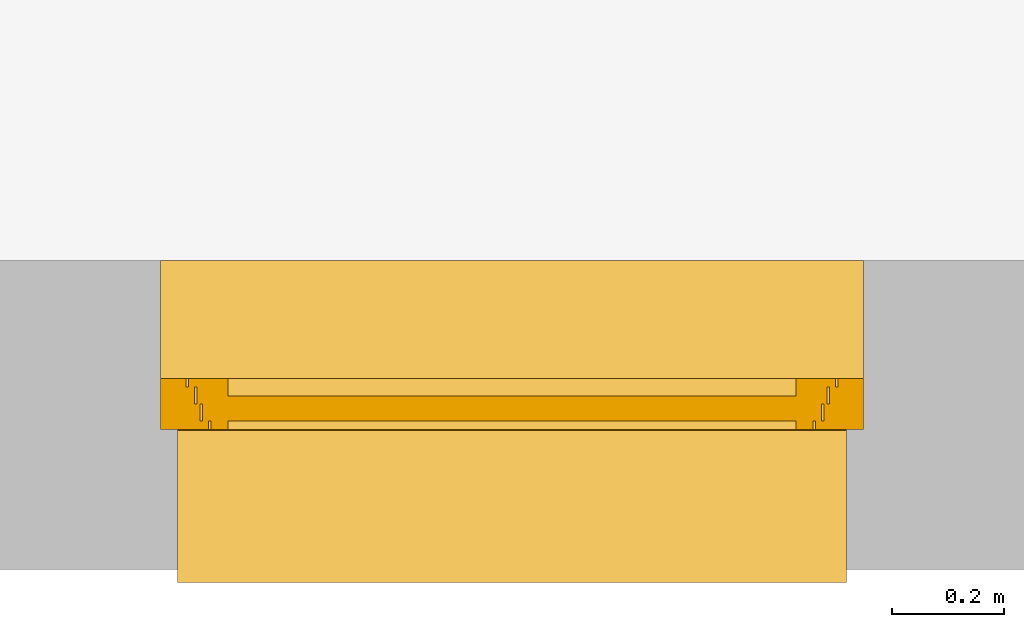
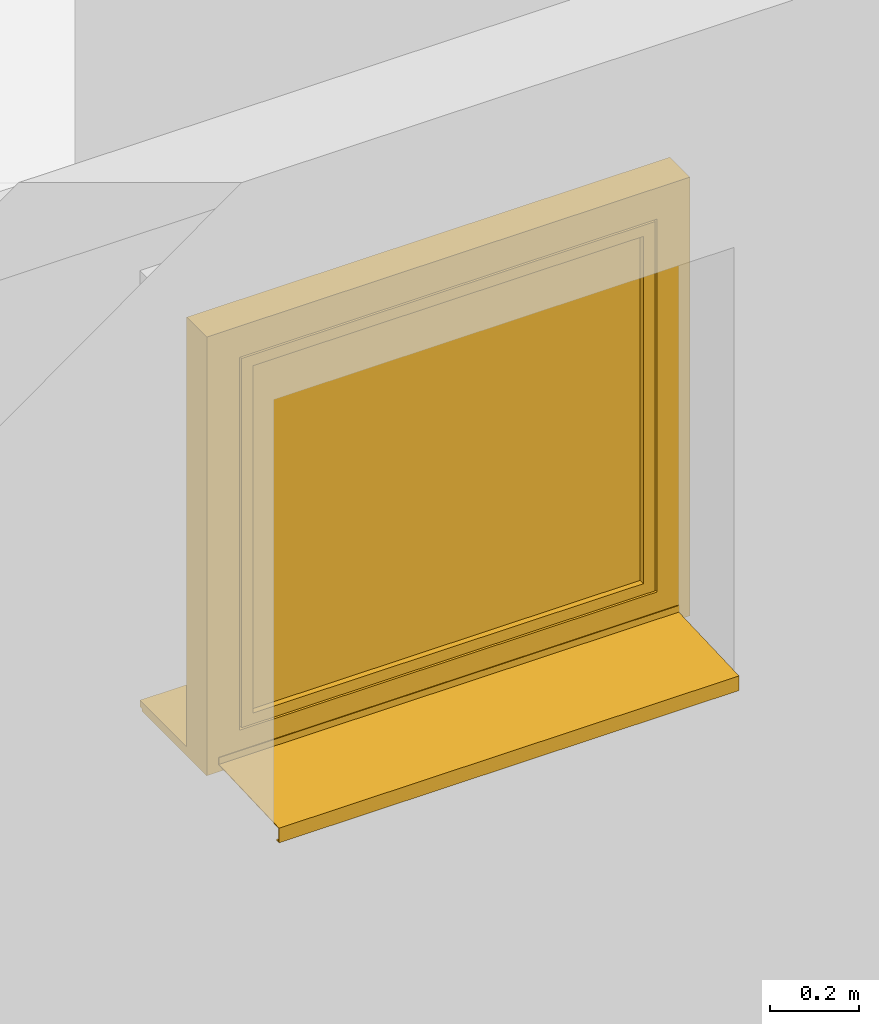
# One storey, part 11 of 18: 1 window.
"""IFC2X3 building model written with IfcOpenShell, lengths in metres."""

from ifc_helpers import new_model, entity, si_unit, converted_unit, derived_unit, direction, frame, origin, origin_2d_with_axis, place, context, subcontext, project, spatial, polyline, rectangle, outline, extrude, faceted_brep, source, transform, mapped, material, material_list, type_object, type_shapes, element, save


model = new_model("IFC2X3")

# Units and contexts
model_context = context("Model", 3, precision=1e-05, world=origin(), true_north=direction((6.123233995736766e-17, 1.0)))
body_context = subcontext(model_context, "Body", "Model", "MODEL_VIEW")
ifc_project = project(units=[si_unit("LENGTHUNIT", "METRE"), si_unit("AREAUNIT", "SQUARE_METRE"), si_unit("VOLUMEUNIT", "CUBIC_METRE"), si_unit("POWERUNIT", "WATT"), derived_unit("USERDEFINED", [(si_unit("MASSUNIT", "GRAM", prefix="KILO"), 1), (si_unit("TIMEUNIT", "SECOND"), -3)]), derived_unit("THERMALRESISTANCEUNIT", [(si_unit("MASSUNIT", "GRAM", prefix="KILO"), -1), (si_unit("TIMEUNIT", "SECOND"), 3), (si_unit("THERMODYNAMICTEMPERATUREUNIT", "KELVIN"), 1)]), derived_unit("USERDEFINED", [(si_unit("MASSUNIT", "GRAM", prefix="KILO"), 1), (si_unit("TIMEUNIT", "SECOND"), -2), (si_unit("THERMODYNAMICTEMPERATUREUNIT", "KELVIN"), -1)]), derived_unit("THERMALTRANSMITTANCEUNIT", [(si_unit("MASSUNIT", "GRAM", prefix="KILO"), 1), (si_unit("TIMEUNIT", "SECOND"), -3), (si_unit("THERMODYNAMICTEMPERATUREUNIT", "KELVIN"), -1)]), converted_unit("PLANEANGLEUNIT", "DEGREE", entity("IfcPlaneAngleMeasure", 0.017453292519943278), si_unit("PLANEANGLEUNIT", "RADIAN"), dimensions=[0, 0, 0, 0, 0, 0, 0]), derived_unit("MOMENTOFINERTIAUNIT", [(si_unit("LENGTHUNIT", "METRE"), 4)])], contexts=[model_context])

# Site, building, storey
site_placement = place(None, origin())
site = spatial("IfcSite", under=ifc_project, at=site_placement, Name="Default", CompositionType="ELEMENT")
building_placement = place(site_placement, origin())
building = spatial("IfcBuilding", under=site, at=building_placement, CompositionType="ELEMENT")
storey_placement = place(building_placement, frame((0.0, 0.0, 2.6)))
storey = spatial("IfcBuildingStorey", under=building, at=storey_placement, Name="Erdgeschoss", CompositionType="ELEMENT", Elevation=2.6)

# Window
ifc_material_1 = material(Name="Glas - Isolierverglasung klar")
ifc_material_2 = material(Name="Holz - generisch 140-100-70")
ifc_material_3 = material(Name="Metall - Edelstahl gebürstet")
ifc_material_4 = material(Name="Kunststoff - grau 70-70-70")
ifc_material_list = material_list([ifc_material_1, ifc_material_2, ifc_material_3, ifc_material_4])
window_style = type_object("IfcWindowStyle", Name="FE 1 tlg - DrehKipp:1250 x 1200", ConstructionType="NOTDEFINED", OperationType="NOTDEFINED", ParameterTakesPrecedence=False, Sizeable=False, material=ifc_material_list)
shared_shape = source(origin(), body_context, "Body", "SolidModel", [
    extrude(rectangle(XDim=1.0100000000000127, YDim=0.04399999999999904, at=origin_2d_with_axis()), frame((0.6250000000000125, 0.8130000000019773, 0.13000000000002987), z_axis=(0.0, 0.0, 1.0), x_axis=(-1.0, 0.0, 0.0)), (0.0, 0.0, 1.0), 0.9499999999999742),
    extrude(outline(polyline([(-0.07333333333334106, -0.014333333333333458), (0.13666666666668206, -0.014333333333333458), (0.13666666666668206, 0.010666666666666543), (-0.06333333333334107, 0.010666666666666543), (-0.06333333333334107, 0.00366666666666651), (-0.07333333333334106, 0.00366666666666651), (-0.07333333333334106, -0.014333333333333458)])), frame((1.2500000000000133, 0.6233333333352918, 0.010666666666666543), z_axis=(-1.0, 0.0, 0.0), x_axis=(0.0, 1.0, 0.0)), (0.0, 0.0, 1.0), 1.2499999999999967),
    faceted_brep([(0.07250000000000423, 0.7600000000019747, 0.5874999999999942), (0.07250000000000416, 0.7600000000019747, 0.6049999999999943), (0.07250000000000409, 0.7600000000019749, 0.6224999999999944), (0.07292592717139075, 0.7600000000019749, 0.6257352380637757), (0.07417468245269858, 0.7600000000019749, 0.6287499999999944), (0.07616116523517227, 0.7600000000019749, 0.6313388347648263), (0.0787500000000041, 0.7600000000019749, 0.6333253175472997), (0.08176476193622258, 0.7600000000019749, 0.6345740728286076), (0.0850000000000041, 0.7600000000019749, 0.6349999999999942), (0.08823523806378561, 0.7600000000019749, 0.6345740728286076), (0.09125000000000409, 0.7600000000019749, 0.6333253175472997), (0.09383883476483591, 0.7600000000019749, 0.6313388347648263), (0.09582531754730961, 0.7600000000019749, 0.6287499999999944), (0.09707407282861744, 0.7600000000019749, 0.6257352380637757), (0.0975000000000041, 0.7600000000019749, 0.6224999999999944), (0.0975000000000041, 0.7600000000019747, 0.6049999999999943), (0.09750000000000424, 0.7600000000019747, 0.5874999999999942), (0.09707407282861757, 0.7600000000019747, 0.5842647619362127), (0.09582531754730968, 0.7600000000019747, 0.5812499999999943), (0.09383883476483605, 0.7600000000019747, 0.5786611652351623), (0.09125000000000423, 0.7600000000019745, 0.5766746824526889), (0.08823523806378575, 0.7600000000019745, 0.575425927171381), (0.08500000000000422, 0.7600000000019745, 0.5749999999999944), (0.08176476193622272, 0.7600000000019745, 0.575425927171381), (0.07875000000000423, 0.7600000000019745, 0.5766746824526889), (0.07616116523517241, 0.7600000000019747, 0.5786611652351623), (0.07417468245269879, 0.7600000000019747, 0.5812499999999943), (0.07292592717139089, 0.7600000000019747, 0.5842647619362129), (0.07633974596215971, 0.7250000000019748, 0.6099999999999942), (0.08000000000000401, 0.7540000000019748, 0.6136602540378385), (0.07534074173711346, 0.7274118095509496, 0.6075881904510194), (0.07792893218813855, 0.7229289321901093, 0.6120710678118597), (0.0824118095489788, 0.7540000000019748, 0.6146592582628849), (0.08758819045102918, 0.720340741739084, 0.6146592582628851), (0.09000000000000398, 0.7213397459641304, 0.6136602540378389), (0.08000000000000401, 0.7213397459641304, 0.6136602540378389), (0.08241180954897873, 0.720340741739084, 0.6146592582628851), (0.08500000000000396, 0.7200000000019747, 0.6149999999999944), (0.08500000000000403, 0.7540000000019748, 0.6149999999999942), (0.07534074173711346, 0.7540000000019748, 0.6075881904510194), (0.07500000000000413, 0.7540000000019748, 0.6049999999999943), (0.07500000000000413, 0.741715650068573, 0.6049999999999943), (0.07500000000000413, 0.7358578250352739, 0.6049999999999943), (0.07500000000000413, 0.7329289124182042, 0.6049999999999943), (0.07500000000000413, 0.7300000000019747, 0.6049999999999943), (0.07633974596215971, 0.7540000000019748, 0.6099999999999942), (0.07792893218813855, 0.7540000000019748, 0.6120710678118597), (0.0920710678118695, 0.7229289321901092, 0.6120710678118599), (0.09000000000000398, 0.7540000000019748, 0.6136602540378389), (0.09366025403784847, 0.7250000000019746, 0.6099999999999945), (0.0946592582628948, 0.7274118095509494, 0.6075881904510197), (0.08758819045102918, 0.7540000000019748, 0.6146592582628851), (0.0920710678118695, 0.7540000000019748, 0.6120710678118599), (0.09500000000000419, 0.7300000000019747, 0.6049999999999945), (0.09366025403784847, 0.7540000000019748, 0.6099999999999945), (0.0946592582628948, 0.7540000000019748, 0.6075881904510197), (0.09500000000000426, 0.7329289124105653, 0.604999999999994), (0.09500000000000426, 0.7358578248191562, 0.6049999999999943), (0.09500000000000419, 0.7417156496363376, 0.6049999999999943), (0.09500000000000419, 0.7540000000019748, 0.6049999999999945), (0.09207106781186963, 0.7370710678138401, 0.5979289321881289), (0.09366025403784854, 0.7350000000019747, 0.5999999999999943), (0.09465925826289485, 0.7325881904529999, 0.6024118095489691), (0.09465925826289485, 0.7540000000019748, 0.6024118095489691), (0.09000000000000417, 0.7386602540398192, 0.5963397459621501), (0.08758819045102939, 0.7396592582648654, 0.5953407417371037), (0.09207106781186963, 0.7540000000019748, 0.5979289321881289), (0.09366025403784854, 0.7540000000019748, 0.5999999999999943), (0.0900000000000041, 0.7540000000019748, 0.5963397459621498), (0.08758819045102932, 0.7540000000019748, 0.5953407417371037), (0.08500000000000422, 0.7400000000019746, 0.5949999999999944), (0.08500000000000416, 0.7540000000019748, 0.5949999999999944), (0.07792893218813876, 0.7370710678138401, 0.5979289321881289), (0.08000000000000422, 0.7386602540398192, 0.5963397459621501), (0.082411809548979, 0.7396592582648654, 0.5953407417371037), (0.07792893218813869, 0.7540000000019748, 0.5979289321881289), (0.07534074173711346, 0.7540000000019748, 0.6024118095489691), (0.07534074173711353, 0.7325881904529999, 0.6024118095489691), (0.07633974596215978, 0.7350000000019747, 0.5999999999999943), (0.08241180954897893, 0.7540000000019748, 0.5953407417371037), (0.08000000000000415, 0.7540000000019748, 0.5963397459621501), (0.07633974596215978, 0.7540000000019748, 0.5999999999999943), (0.07500000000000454, 0.7300000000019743, 0.4849999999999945), (0.07534074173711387, 0.7325881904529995, 0.4849999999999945), (0.07633974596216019, 0.7350000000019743, 0.4849999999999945), (0.0779289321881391, 0.7370710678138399, 0.4849999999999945), (0.08000000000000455, 0.7386602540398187, 0.4849999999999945), (0.0824118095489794, 0.739659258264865, 0.4849999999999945), (0.08500000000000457, 0.7400000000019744, 0.4849999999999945), (0.0875881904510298, 0.739659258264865, 0.4849999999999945), (0.09000000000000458, 0.7386602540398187, 0.4849999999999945), (0.09207106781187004, 0.7370710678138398, 0.4849999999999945), (0.09366025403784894, 0.7350000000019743, 0.4849999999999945), (0.09465925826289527, 0.7325881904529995, 0.4849999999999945), (0.0950000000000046, 0.7300000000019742, 0.4849999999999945), (0.0946592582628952, 0.7274118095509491, 0.4849999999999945), (0.09366025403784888, 0.7250000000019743, 0.4849999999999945), (0.09207106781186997, 0.7229289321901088, 0.4849999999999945), (0.09000000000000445, 0.7213397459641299, 0.4849999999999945), (0.08758819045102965, 0.7203407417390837, 0.4849999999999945), (0.08500000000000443, 0.7200000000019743, 0.4849999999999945), (0.08241180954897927, 0.7203407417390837, 0.4849999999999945), (0.08000000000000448, 0.72133974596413, 0.4849999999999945), (0.07792893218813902, 0.7229289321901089, 0.4849999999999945), (0.07633974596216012, 0.7250000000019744, 0.4849999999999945), (0.07534074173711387, 0.7274118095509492, 0.4849999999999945), (0.07500000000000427, 0.7300000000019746, 0.5773956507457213), (0.07500000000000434, 0.7300000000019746, 0.5497913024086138), (0.09500000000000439, 0.7300000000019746, 0.5497913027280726), (0.09500000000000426, 0.7300000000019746, 0.5773956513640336), (0.09582531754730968, 0.7540000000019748, 0.5812499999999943), (0.09383883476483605, 0.7540000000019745, 0.5786611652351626), (0.09707407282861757, 0.7540000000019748, 0.5842647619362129), (0.09750000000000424, 0.7540000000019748, 0.5874999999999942), (0.0975000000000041, 0.7540000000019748, 0.6049999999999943), (0.0975000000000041, 0.7540000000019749, 0.6224999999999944), (0.09707407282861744, 0.7540000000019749, 0.625735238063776), (0.09582531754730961, 0.7540000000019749, 0.6287499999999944), (0.09383883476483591, 0.7540000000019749, 0.6313388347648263), (0.09125000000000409, 0.7540000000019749, 0.6333253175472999), (0.08823523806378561, 0.7540000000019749, 0.6345740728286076), (0.0850000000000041, 0.7540000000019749, 0.6349999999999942), (0.08176476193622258, 0.7540000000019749, 0.6345740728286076), (0.0787500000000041, 0.7540000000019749, 0.6333253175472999), (0.07616116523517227, 0.7540000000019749, 0.6313388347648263), (0.07417468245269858, 0.7540000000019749, 0.6287499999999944), (0.07292592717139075, 0.7540000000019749, 0.625735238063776), (0.07250000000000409, 0.7540000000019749, 0.6224999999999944), (0.07250000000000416, 0.7540000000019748, 0.6049999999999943), (0.07250000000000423, 0.7540000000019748, 0.5874999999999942), (0.07292592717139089, 0.7540000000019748, 0.5842647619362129), (0.07417468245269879, 0.7540000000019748, 0.5812499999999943), (0.07616116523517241, 0.7540000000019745, 0.5786611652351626), (0.07875000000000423, 0.7540000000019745, 0.5766746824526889), (0.08176476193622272, 0.7540000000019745, 0.575425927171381), (0.08500000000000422, 0.7540000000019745, 0.5749999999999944), (0.08823523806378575, 0.7540000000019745, 0.575425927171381), (0.09125000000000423, 0.7540000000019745, 0.5766746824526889)], [[[0, 1, 2, 3, 4, 5, 6, 7, 8, 9, 10, 11, 12, 13, 14, 15, 16, 17, 18, 19, 20, 21, 22, 23, 24, 25, 26, 27]], [[28, 29, 30]], [[31, 32, 28]], [[33, 34, 35, 36, 37]], [[32, 31, 38]], [[38, 31, 35]], [[39, 40, 41, 42, 43, 44]], [[39, 44, 45]], [[46, 45, 44]], [[46, 30, 29]], [[44, 30, 46]], [[28, 32, 29]], [[35, 34, 38]], [[47, 38, 34]], [[48, 49, 50]], [[47, 49, 51]], [[52, 50, 53]], [[51, 38, 47]], [[48, 51, 49]], [[54, 52, 53]], [[55, 53, 56, 57, 58, 59]], [[54, 53, 55]], [[48, 50, 52]], [[60, 58, 61]], [[53, 62, 57, 56]], [[58, 63, 59]], [[58, 57, 61]], [[64, 65, 66]], [[58, 64, 66]], [[58, 60, 64]], [[58, 67, 63]], [[65, 68, 66]], [[67, 58, 66]], [[68, 65, 69]], [[70, 71, 69, 65]], [[61, 57, 62]], [[72, 41, 73]], [[74, 73, 75]], [[76, 41, 40]], [[77, 44, 43, 42]], [[42, 78, 77]], [[78, 41, 72]], [[71, 70, 74, 79]], [[80, 79, 74]], [[75, 73, 41]], [[42, 41, 78]], [[41, 76, 81]], [[41, 81, 75]], [[80, 74, 75]], [[82, 83, 84, 85, 86, 87, 88, 89, 90, 91, 92, 93, 94, 95, 96, 97, 98, 99, 100, 101, 102, 103, 104, 105]], [[105, 44, 106, 107, 82]], [[104, 44, 105]], [[102, 101, 36, 35]], [[30, 104, 103]], [[31, 103, 102, 35]], [[103, 28, 30]], [[30, 44, 104]], [[31, 28, 103]], [[100, 37, 36, 101]], [[98, 97, 47, 34]], [[99, 98, 34, 33]], [[95, 94, 108, 109, 53]], [[96, 95, 53]], [[97, 96, 50]], [[33, 37, 100, 99]], [[97, 49, 47]], [[97, 50, 49]], [[96, 53, 50]], [[108, 92, 91]], [[92, 108, 93]], [[89, 65, 108]], [[108, 90, 89]], [[108, 91, 90]], [[93, 108, 94]], [[62, 53, 109]], [[61, 62, 109]], [[70, 65, 89, 88]], [[64, 108, 65]], [[108, 64, 60]], [[109, 60, 61]], [[106, 78, 72]], [[78, 106, 77]], [[85, 107, 86]], [[86, 107, 87]], [[82, 107, 83]], [[44, 77, 106]], [[83, 107, 84]], [[84, 107, 85]], [[74, 70, 88, 87]], [[87, 107, 74]], [[107, 72, 73]], [[107, 106, 72]], [[73, 74, 107]], [[108, 60, 109]], [[110, 71, 111]], [[69, 71, 110]], [[112, 69, 110]], [[112, 113, 69]], [[69, 113, 68]], [[66, 68, 113]], [[67, 66, 113]], [[114, 67, 113]], [[114, 63, 67]], [[114, 59, 63]], [[55, 59, 114]], [[114, 54, 55]], [[54, 114, 115]], [[52, 54, 115]], [[48, 52, 115]], [[51, 48, 115]], [[116, 51, 115]], [[116, 117, 51]], [[51, 117, 38]], [[118, 38, 117]], [[38, 118, 119]], [[119, 120, 38]], [[38, 120, 121]], [[38, 121, 122]], [[122, 123, 38]], [[123, 124, 38]], [[125, 38, 124]], [[32, 38, 125]], [[126, 32, 125]], [[32, 126, 127]], [[29, 32, 127]], [[46, 29, 127]], [[45, 46, 127]], [[127, 128, 45]], [[128, 39, 45]], [[128, 40, 39]], [[128, 76, 40]], [[128, 81, 76]], [[128, 129, 81]], [[81, 129, 75]], [[80, 75, 129]], [[79, 80, 129]], [[79, 129, 130]], [[130, 131, 79]], [[71, 131, 132]], [[71, 79, 131]], [[133, 71, 132]], [[71, 133, 134]], [[135, 71, 134]], [[136, 71, 135]], [[71, 136, 137]], [[111, 71, 137]], [[13, 116, 115, 14]], [[12, 117, 116, 13]], [[119, 118, 11, 10]], [[12, 11, 118, 117]], [[120, 119, 10, 9]], [[121, 120, 9, 8]], [[7, 122, 121, 8]], [[6, 123, 122, 7]], [[125, 124, 5, 4]], [[6, 5, 124, 123]], [[126, 125, 4, 3]], [[127, 126, 3, 2]], [[128, 127, 2, 1, 0, 129]], [[27, 130, 129, 0]], [[26, 131, 130, 27]], [[133, 132, 25, 24]], [[26, 25, 132, 131]], [[134, 133, 24, 23]], [[135, 134, 23, 22]], [[21, 136, 135, 22]], [[20, 137, 136, 21]], [[110, 111, 19, 18]], [[20, 19, 111, 137]], [[112, 110, 18, 17]], [[113, 112, 17, 16]], [[114, 113, 16, 15, 14, 115]]]),
    faceted_brep([(1.1300000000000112, 0.7600000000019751, 1.0799999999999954), (1.1300000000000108, 0.8500000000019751, 1.0799999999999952), (1.1300000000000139, 0.8500000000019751, 0.12999999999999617), (1.130000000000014, 0.760000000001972, 0.12999999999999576), (1.1600000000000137, 0.8500000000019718, 0.09999999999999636), (0.0900000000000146, 0.8500000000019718, 0.09999999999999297), (0.09000000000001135, 0.8500000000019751, 1.1099999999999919), (1.1600000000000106, 0.8500000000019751, 1.1099999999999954), (0.12000000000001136, 0.8500000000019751, 1.079999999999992), (0.12000000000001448, 0.8500000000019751, 0.12999999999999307), (0.12000000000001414, 0.760000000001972, 0.12999999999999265), (0.12000000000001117, 0.760000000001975, 1.079999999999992), (1.2000000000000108, 0.7600000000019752, 1.1499999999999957), (0.0500000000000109, 0.7600000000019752, 1.149999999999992), (0.050000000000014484, 0.7600000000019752, 0.059999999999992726), (1.2000000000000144, 0.7600000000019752, 0.059999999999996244), (1.2000000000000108, 0.7750000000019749, 1.1499999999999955), (1.2000000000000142, 0.7750000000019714, 0.059999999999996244), (0.050000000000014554, 0.7750000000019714, 0.05999999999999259), (0.050000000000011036, 0.7750000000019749, 1.149999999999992), (1.1850000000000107, 0.7750000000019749, 1.1349999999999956), (0.06500000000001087, 0.7750000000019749, 1.1349999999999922), (0.06500000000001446, 0.7750000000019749, 0.07499999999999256), (1.1850000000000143, 0.7750000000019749, 0.07499999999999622), (1.1850000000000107, 0.8050000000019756, 1.1349999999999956), (1.1850000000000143, 0.805000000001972, 0.07499999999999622), (0.0650000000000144, 0.805000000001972, 0.0749999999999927), (0.06500000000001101, 0.8050000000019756, 1.1349999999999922), (1.1750000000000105, 0.8050000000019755, 1.1249999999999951), (0.07500000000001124, 0.8050000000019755, 1.1249999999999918), (0.07500000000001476, 0.8050000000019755, 0.084999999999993), (1.1750000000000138, 0.8050000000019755, 0.08499999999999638), (1.1750000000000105, 0.8350000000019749, 1.124999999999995), (1.1750000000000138, 0.8350000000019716, 0.08499999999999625), (0.0750000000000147, 0.8350000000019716, 0.08499999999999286), (0.07500000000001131, 0.8350000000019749, 1.1249999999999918), (1.1600000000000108, 0.8350000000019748, 1.1099999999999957), (0.09000000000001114, 0.8350000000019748, 1.109999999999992), (0.09000000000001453, 0.8350000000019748, 0.09999999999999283), (1.1600000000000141, 0.8350000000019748, 0.09999999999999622)], [[[0, 1, 2, 3]], [[4, 5, 6, 7], [1, 8, 9, 2]], [[3, 2, 9, 10]], [[3, 10, 11, 0], [12, 13, 14, 15]], [[16, 12, 15, 17]], [[17, 15, 14, 18]], [[17, 18, 19, 16], [20, 21, 22, 23]], [[24, 20, 23, 25]], [[25, 23, 22, 26]], [[25, 26, 27, 24], [28, 29, 30, 31]], [[32, 28, 31, 33]], [[33, 31, 30, 34]], [[33, 34, 35, 32], [36, 37, 38, 39]], [[7, 36, 39, 4]], [[4, 39, 38, 5]], [[10, 9, 8, 11]], [[18, 14, 13, 19]], [[26, 22, 21, 27]], [[34, 30, 29, 35]], [[5, 38, 37, 6]], [[11, 8, 1, 0]], [[19, 13, 12, 16]], [[27, 21, 20, 24]], [[35, 29, 28, 32]], [[6, 37, 36, 7]]], outer=[[True], [True, False], [True], [False, True], [True], [True], [True, False], [True], [True], [True, False], [True], [True], [True, False], [True], [True], [True], [True], [True], [True], [True], [True], [True], [True], [True], [True]]),
    faceted_brep([(1.2200000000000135, 1.1220000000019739, 0.011120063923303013), (0.03000000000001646, 1.1220000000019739, 0.011120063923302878), (0.03000000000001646, 1.100000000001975, 0.012000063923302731), (0.03000000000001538, 0.8520000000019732, 0.021920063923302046), (1.220000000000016, 0.8520000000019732, 0.021920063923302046), (1.2200000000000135, 1.100000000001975, 0.012000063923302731), (1.2200000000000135, 1.1220000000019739, -0.02887993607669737), (0.03000000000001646, 1.1220000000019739, -0.028879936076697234), (1.2200000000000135, 1.1100000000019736, -0.02887993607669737), (0.03000000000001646, 1.1100000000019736, -0.02887993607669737), (1.2200000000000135, 1.1100000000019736, -0.02687993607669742), (0.03000000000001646, 1.1100000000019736, -0.026879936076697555), (1.2200000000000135, 1.1200000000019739, -0.02687993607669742), (0.03000000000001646, 1.1200000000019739, -0.02687993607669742), (1.2200000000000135, 1.1200000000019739, 0.00920000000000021), (0.03000000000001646, 1.1200000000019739, 0.00920000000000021), (1.2200000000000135, 1.100000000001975, 0.010000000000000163), (1.2200000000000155, 0.8500000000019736, 0.02000000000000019), (0.03000000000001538, 0.8500000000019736, 0.02000000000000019), (0.03000000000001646, 1.100000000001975, 0.010000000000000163), (1.2200000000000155, 0.8500000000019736, 0.040000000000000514), (0.03000000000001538, 0.8500000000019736, 0.040000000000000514), (1.2200000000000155, 0.8520000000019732, 0.040000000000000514), (0.03000000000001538, 0.8520000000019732, 0.040000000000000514)], [[[0, 1, 2, 3, 4, 5]], [[6, 7, 1, 0]], [[8, 9, 7, 6]], [[10, 11, 9, 8]], [[12, 13, 11, 10]], [[14, 15, 13, 12]], [[16, 17, 18, 19, 15, 14]], [[20, 21, 18, 17]], [[22, 23, 21, 20]], [[4, 3, 23, 22]], [[16, 14, 12, 10, 8, 6, 0, 5]], [[19, 18, 21, 23, 3, 2]], [[5, 4, 22, 20, 17, 16]], [[2, 1, 7, 9, 11, 13, 15, 19]]]),
    faceted_brep([(0.0, 0.8500000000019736, 0.0), (1.250000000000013, 0.8500000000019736, 0.0), (1.250000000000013, 0.7600000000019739, 0.0), (0.0, 0.7600000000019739, 0.0), (0.0, 0.8500000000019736, 1.1999999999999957), (0.0, 0.7600000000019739, 1.1999999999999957), (1.250000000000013, 0.7600000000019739, 1.1999999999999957), (0.04500000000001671, 0.7600000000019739, 1.154999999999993), (1.205000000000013, 0.7600000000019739, 1.154999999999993), (1.205000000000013, 0.7600000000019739, 0.05500000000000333), (0.04500000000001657, 0.7600000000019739, 0.05500000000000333), (1.250000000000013, 0.8500000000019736, 1.1999999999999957), (0.08500000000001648, 0.8500000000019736, 0.09500000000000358), (1.1650000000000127, 0.8500000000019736, 0.09500000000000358), (1.1650000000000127, 0.8500000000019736, 1.1149999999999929), (0.08500000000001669, 0.8500000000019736, 1.1149999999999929), (0.08500000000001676, 0.8350000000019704, 1.1149999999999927), (0.08500000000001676, 0.8350000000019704, 0.09500000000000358), (1.1650000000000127, 0.8350000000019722, 0.09500000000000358), (1.1650000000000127, 0.8350000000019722, 1.1149999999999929), (0.04500000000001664, 0.7750000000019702, 1.154999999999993), (0.04500000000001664, 0.7750000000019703, 0.0550000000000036), (1.205000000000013, 0.7750000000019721, 0.05500000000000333), (1.205000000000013, 0.7750000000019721, 1.154999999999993), (0.06000000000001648, 0.7750000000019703, 1.1399999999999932), (1.1900000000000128, 0.7750000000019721, 1.1399999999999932), (1.1900000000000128, 0.7750000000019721, 0.07000000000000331), (0.06000000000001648, 0.7750000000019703, 0.07000000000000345), (0.06000000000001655, 0.8050000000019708, 0.07000000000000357), (1.1900000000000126, 0.8050000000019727, 0.07000000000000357), (1.1900000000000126, 0.8050000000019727, 1.1399999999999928), (0.06000000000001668, 0.8050000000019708, 1.1399999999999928), (0.07000000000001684, 0.8050000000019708, 1.1299999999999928), (1.1800000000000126, 0.8050000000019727, 1.1299999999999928), (1.1800000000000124, 0.8050000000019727, 0.08000000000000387), (0.07000000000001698, 0.8050000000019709, 0.08000000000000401), (0.07000000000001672, 0.8350000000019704, 0.08000000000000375), (1.1800000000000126, 0.8350000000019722, 0.08000000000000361), (1.1800000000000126, 0.8350000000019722, 1.1299999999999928), (0.07000000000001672, 0.8350000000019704, 1.1299999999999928)], [[[0, 1, 2, 3]], [[4, 0, 3, 5]], [[5, 3, 2, 6], [7, 8, 9, 10]], [[6, 2, 1, 11]], [[11, 1, 0, 4], [12, 13, 14, 15]], [[12, 15, 16, 17]], [[18, 19, 14, 13]], [[17, 18, 13, 12]], [[20, 7, 10, 21]], [[10, 9, 22, 21]], [[9, 8, 23, 22]], [[21, 22, 23, 20], [24, 25, 26, 27]], [[28, 29, 30, 31], [32, 33, 34, 35]], [[31, 24, 27, 28]], [[27, 26, 29, 28]], [[36, 37, 38, 39], [16, 19, 18, 17]], [[39, 32, 35, 36]], [[35, 34, 37, 36]], [[26, 25, 30, 29]], [[34, 33, 38, 37]], [[4, 5, 6, 11]], [[20, 23, 8, 7]], [[31, 30, 25, 24]], [[39, 38, 33, 32]], [[15, 14, 19, 16]]]),
])
type_shapes(window_style, [shared_shape])
window_placement = place(storey_placement, frame((35.28375489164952, 16.392272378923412, 1.0069716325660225), z_axis=(0.0, 0.0, 1.0), x_axis=(-1.0, 0.0, 0.0)))
element("IfcWindow", 1, at=window_placement, inside=storey, type_object=window_style, material=ifc_material_list, Name="FE 1 tlg - DrehKipp:1250 x 1200", ObjectType="FE 1 tlg - DrehKipp:1250 x 1200", OverallHeight=2.050000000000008, OverallWidth=1.250000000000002, context=body_context, shape_type="MappedRepresentation", body=[
    mapped(shared_shape, transform((0.0, 0.0, 0.0), scale=1.0)),
])

save(model, "model.ifc")
